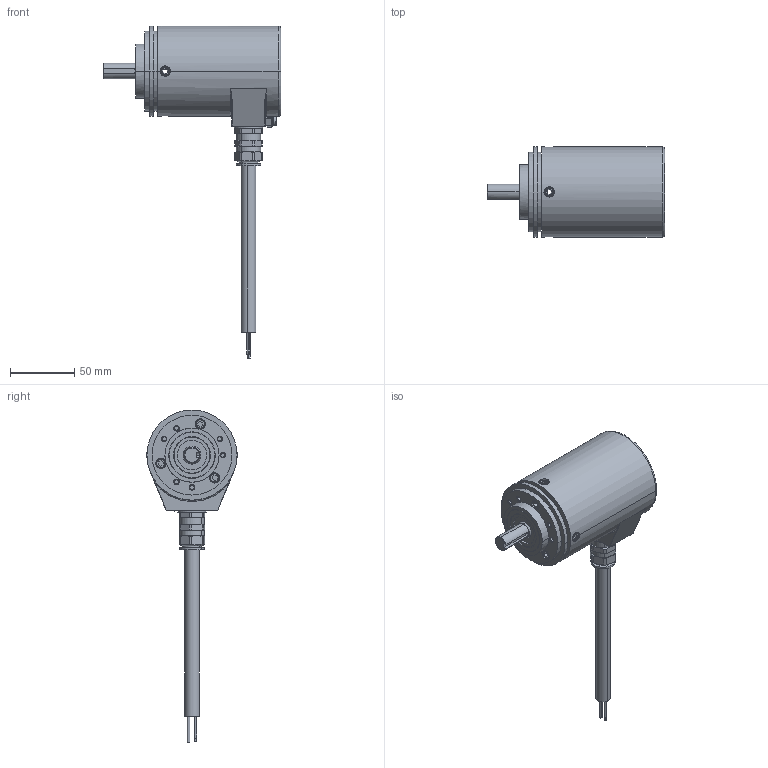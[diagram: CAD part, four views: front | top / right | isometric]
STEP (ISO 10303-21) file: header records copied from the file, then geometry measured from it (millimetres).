
FILE_DESCRIPTION (( 'STEP AP214' ), '1' );
FILE_NAME ('8.7063.1122.XXXX.STEP', '2011-01-27T11:49:20', ( 'admin' ), ( 'Fritz Kübler GmbH' ), 'SwSTEP 2.0', 'SolidWorks 2009', '' );
FILE_SCHEMA (( 'AUTOMOTIVE_DESIGN' ));
Length unit declared in the file: millimetre
Products named in the file (1): 8.7063.1122.XXXX
Bounding box: 137.7 x 70 x 257.7 mm (x, y, z)
Surface area: 48160.6 mm2 (no closed solid volume)
Topology: 0 solids, 22 shells, 307 faces, 796 edges, 512 vertices
Faces by surface type: cylinder 127, plane 124, cone 35, torus 17, bspline 4
Entity records: 13163 total; most frequent: CARTESIAN_POINT 2288, DIRECTION 1633, ORIENTED_EDGE 1421, EDGE_CURVE 792, AXIS2_PLACEMENT_3D 617, VERTEX_POINT 512, LINE 399, VECTOR 399
